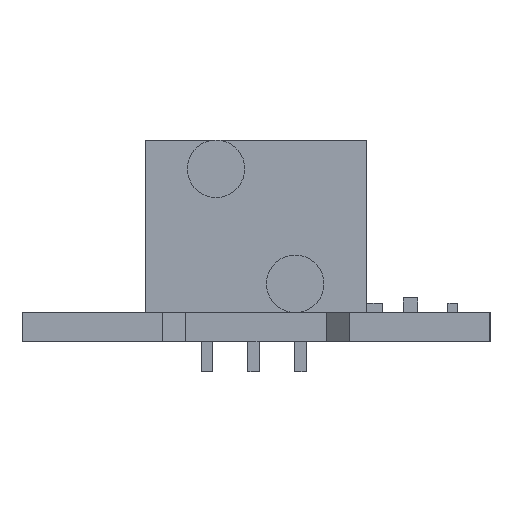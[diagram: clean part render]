
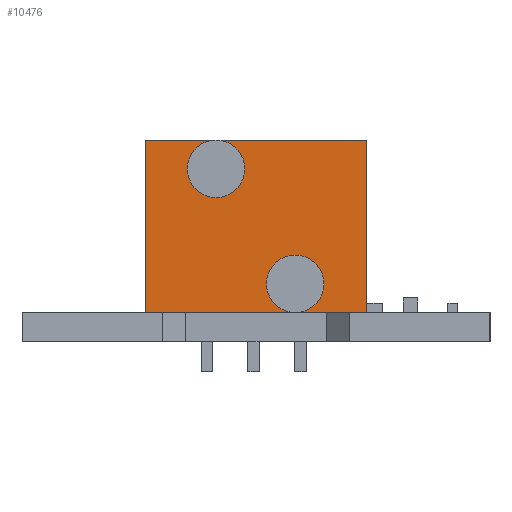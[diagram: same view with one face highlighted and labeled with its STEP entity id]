
A CAD part, left-side view. The second image highlights one B-rep face of the part: STEP entity #10476.
In plain terms, the highlighted planar face has unit normal (-1, 0, 0).
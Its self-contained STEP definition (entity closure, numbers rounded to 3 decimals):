
#10476 = ADVANCED_FACE('',(#10477),#10491,.T.);
#10477 = FACE_BOUND('',#10478,.T.);
#10478 = EDGE_LOOP('',(#10479,#10514,#10542,#10570));
#10479 = ORIENTED_EDGE('',*,*,#10480,.T.);
#10480 = EDGE_CURVE('',#10481,#10483,#10485,.T.);
#10481 = VERTEX_POINT('',#10482);
#10482 = CARTESIAN_POINT('',(-6.,-6.,0.));
#10483 = VERTEX_POINT('',#10484);
#10484 = CARTESIAN_POINT('',(-6.,-6.,9.36));
#10485 = SURFACE_CURVE('',#10486,(#10490,#10502),.PCURVE_S1.);
#10486 = LINE('',#10487,#10488);
#10487 = CARTESIAN_POINT('',(-6.,-6.,0.));
#10488 = VECTOR('',#10489,1.);
#10489 = DIRECTION('',(0.,0.,1.));
#10490 = PCURVE('',#10491,#10496);
#10491 = PLANE('',#10492);
#10492 = AXIS2_PLACEMENT_3D('',#10493,#10494,#10495);
#10493 = CARTESIAN_POINT('',(-6.,-6.,0.));
#10494 = DIRECTION('',(-1.,0.,0.));
#10495 = DIRECTION('',(0.,1.,0.));
#10496 = DEFINITIONAL_REPRESENTATION('',(#10497),#10501);
#10497 = LINE('',#10498,#10499);
#10498 = CARTESIAN_POINT('',(0.,0.));
#10499 = VECTOR('',#10500,1.);
#10500 = DIRECTION('',(0.,-1.));
#10501 = ( GEOMETRIC_REPRESENTATION_CONTEXT(2) 
PARAMETRIC_REPRESENTATION_CONTEXT() REPRESENTATION_CONTEXT('2D SPACE',''
  ) );
#10502 = PCURVE('',#10503,#10508);
#10503 = PLANE('',#10504);
#10504 = AXIS2_PLACEMENT_3D('',#10505,#10506,#10507);
#10505 = CARTESIAN_POINT('',(6.,-6.,0.));
#10506 = DIRECTION('',(0.,-1.,0.));
#10507 = DIRECTION('',(-1.,0.,0.));
#10508 = DEFINITIONAL_REPRESENTATION('',(#10509),#10513);
#10509 = LINE('',#10510,#10511);
#10510 = CARTESIAN_POINT('',(12.,0.));
#10511 = VECTOR('',#10512,1.);
#10512 = DIRECTION('',(0.,-1.));
#10513 = ( GEOMETRIC_REPRESENTATION_CONTEXT(2) 
PARAMETRIC_REPRESENTATION_CONTEXT() REPRESENTATION_CONTEXT('2D SPACE',''
  ) );
#10514 = ORIENTED_EDGE('',*,*,#10515,.T.);
#10515 = EDGE_CURVE('',#10483,#10516,#10518,.T.);
#10516 = VERTEX_POINT('',#10517);
#10517 = CARTESIAN_POINT('',(-6.,6.,9.36));
#10518 = SURFACE_CURVE('',#10519,(#10523,#10530),.PCURVE_S1.);
#10519 = LINE('',#10520,#10521);
#10520 = CARTESIAN_POINT('',(-6.,-6.,9.36));
#10521 = VECTOR('',#10522,1.);
#10522 = DIRECTION('',(0.,1.,0.));
#10523 = PCURVE('',#10491,#10524);
#10524 = DEFINITIONAL_REPRESENTATION('',(#10525),#10529);
#10525 = LINE('',#10526,#10527);
#10526 = CARTESIAN_POINT('',(0.,-9.36));
#10527 = VECTOR('',#10528,1.);
#10528 = DIRECTION('',(1.,0.));
#10529 = ( GEOMETRIC_REPRESENTATION_CONTEXT(2) 
PARAMETRIC_REPRESENTATION_CONTEXT() REPRESENTATION_CONTEXT('2D SPACE',''
  ) );
#10530 = PCURVE('',#10531,#10536);
#10531 = PLANE('',#10532);
#10532 = AXIS2_PLACEMENT_3D('',#10533,#10534,#10535);
#10533 = CARTESIAN_POINT('',(-6.,-6.,9.36));
#10534 = DIRECTION('',(0.,0.,1.));
#10535 = DIRECTION('',(1.,0.,0.));
#10536 = DEFINITIONAL_REPRESENTATION('',(#10537),#10541);
#10537 = LINE('',#10538,#10539);
#10538 = CARTESIAN_POINT('',(0.,0.));
#10539 = VECTOR('',#10540,1.);
#10540 = DIRECTION('',(0.,1.));
#10541 = ( GEOMETRIC_REPRESENTATION_CONTEXT(2) 
PARAMETRIC_REPRESENTATION_CONTEXT() REPRESENTATION_CONTEXT('2D SPACE',''
  ) );
#10542 = ORIENTED_EDGE('',*,*,#10543,.F.);
#10543 = EDGE_CURVE('',#10544,#10516,#10546,.T.);
#10544 = VERTEX_POINT('',#10545);
#10545 = CARTESIAN_POINT('',(-6.,6.,0.));
#10546 = SURFACE_CURVE('',#10547,(#10551,#10558),.PCURVE_S1.);
#10547 = LINE('',#10548,#10549);
#10548 = CARTESIAN_POINT('',(-6.,6.,0.));
#10549 = VECTOR('',#10550,1.);
#10550 = DIRECTION('',(0.,0.,1.));
#10551 = PCURVE('',#10491,#10552);
#10552 = DEFINITIONAL_REPRESENTATION('',(#10553),#10557);
#10553 = LINE('',#10554,#10555);
#10554 = CARTESIAN_POINT('',(12.,0.));
#10555 = VECTOR('',#10556,1.);
#10556 = DIRECTION('',(0.,-1.));
#10557 = ( GEOMETRIC_REPRESENTATION_CONTEXT(2) 
PARAMETRIC_REPRESENTATION_CONTEXT() REPRESENTATION_CONTEXT('2D SPACE',''
  ) );
#10558 = PCURVE('',#10559,#10564);
#10559 = PLANE('',#10560);
#10560 = AXIS2_PLACEMENT_3D('',#10561,#10562,#10563);
#10561 = CARTESIAN_POINT('',(-6.,6.,0.));
#10562 = DIRECTION('',(0.,1.,0.));
#10563 = DIRECTION('',(1.,0.,0.));
#10564 = DEFINITIONAL_REPRESENTATION('',(#10565),#10569);
#10565 = LINE('',#10566,#10567);
#10566 = CARTESIAN_POINT('',(0.,0.));
#10567 = VECTOR('',#10568,1.);
#10568 = DIRECTION('',(0.,-1.));
#10569 = ( GEOMETRIC_REPRESENTATION_CONTEXT(2) 
PARAMETRIC_REPRESENTATION_CONTEXT() REPRESENTATION_CONTEXT('2D SPACE',''
  ) );
#10570 = ORIENTED_EDGE('',*,*,#10571,.F.);
#10571 = EDGE_CURVE('',#10481,#10544,#10572,.T.);
#10572 = SURFACE_CURVE('',#10573,(#10577,#10584),.PCURVE_S1.);
#10573 = LINE('',#10574,#10575);
#10574 = CARTESIAN_POINT('',(-6.,-6.,0.));
#10575 = VECTOR('',#10576,1.);
#10576 = DIRECTION('',(0.,1.,0.));
#10577 = PCURVE('',#10491,#10578);
#10578 = DEFINITIONAL_REPRESENTATION('',(#10579),#10583);
#10579 = LINE('',#10580,#10581);
#10580 = CARTESIAN_POINT('',(0.,0.));
#10581 = VECTOR('',#10582,1.);
#10582 = DIRECTION('',(1.,0.));
#10583 = ( GEOMETRIC_REPRESENTATION_CONTEXT(2) 
PARAMETRIC_REPRESENTATION_CONTEXT() REPRESENTATION_CONTEXT('2D SPACE',''
  ) );
#10584 = PCURVE('',#10585,#10590);
#10585 = PLANE('',#10586);
#10586 = AXIS2_PLACEMENT_3D('',#10587,#10588,#10589);
#10587 = CARTESIAN_POINT('',(-6.,-6.,0.));
#10588 = DIRECTION('',(0.,0.,1.));
#10589 = DIRECTION('',(1.,0.,0.));
#10590 = DEFINITIONAL_REPRESENTATION('',(#10591),#10595);
#10591 = LINE('',#10592,#10593);
#10592 = CARTESIAN_POINT('',(0.,0.));
#10593 = VECTOR('',#10594,1.);
#10594 = DIRECTION('',(0.,1.));
#10595 = ( GEOMETRIC_REPRESENTATION_CONTEXT(2) 
PARAMETRIC_REPRESENTATION_CONTEXT() REPRESENTATION_CONTEXT('2D SPACE',''
  ) );
